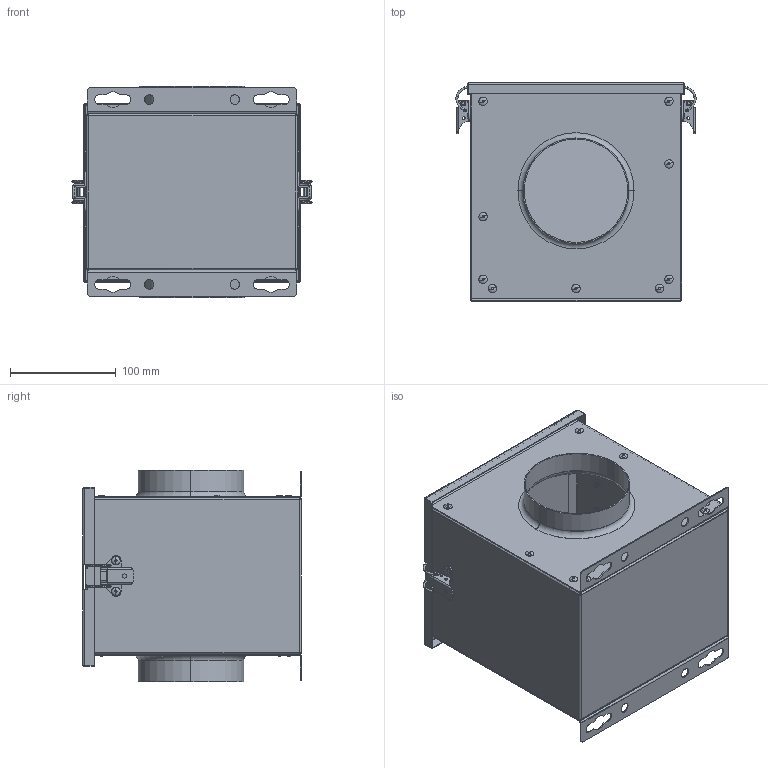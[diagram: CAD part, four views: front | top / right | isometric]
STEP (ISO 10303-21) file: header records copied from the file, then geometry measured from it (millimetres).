
FILE_DESCRIPTION (( 'STEP AP203' ), '1' );
FILE_NAME ('112678-01_FV100_step.step', '2020-08-26T10:43:05', ( '' ), ( '' ), 'SwSTEP 2.0', 'SolidWorks 2017', '' );
FILE_SCHEMA (( 'CONFIG_CONTROL_DESIGN' ));
Length unit declared in the file: millimetre
Products named in the file (1): 112678-01_FV100_step
Bounding box: 227.59 x 207 x 200 mm (x, y, z)
Surface area: 495705.6 mm2 (no closed solid volume)
Topology: 0 solids, 47 shells, 559 faces, 1610 edges, 1050 vertices
Faces by surface type: cylinder 266, plane 158, torus 80, bspline 55
Entity records: 19749 total; most frequent: CARTESIAN_POINT 4819, DIRECTION 3390, ORIENTED_EDGE 2716, EDGE_CURVE 1610, AXIS2_PLACEMENT_3D 1335, VERTEX_POINT 1050, CIRCLE 830, VECTOR 720
